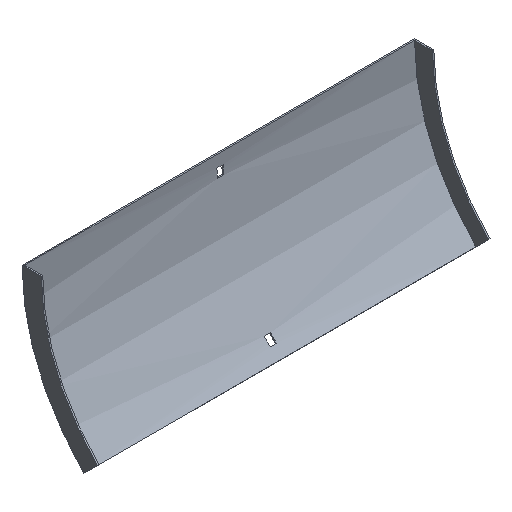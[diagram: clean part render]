
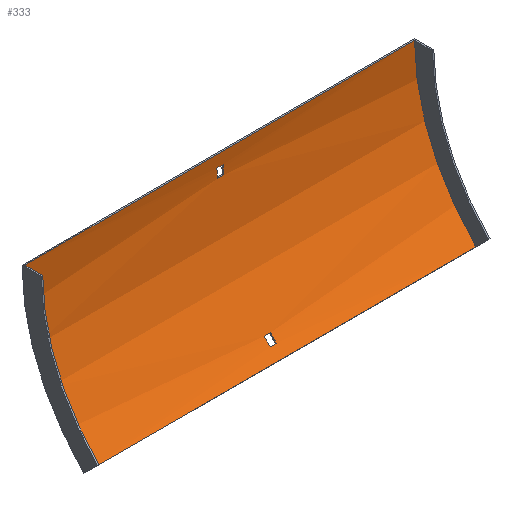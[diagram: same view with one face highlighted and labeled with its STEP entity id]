
A CAD part, isometric view. The second image highlights one B-rep face of the part: STEP entity #333.
In plain terms, the highlighted cylindrical face has radius 217.5 mm (diameter 435 mm), a partial arc.
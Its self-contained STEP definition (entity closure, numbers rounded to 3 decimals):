
#5 = DIRECTION ( 'NONE',  ( 0., 0., 1. ) ) ;
#14 = CARTESIAN_POINT ( 'NONE',  ( 203.5, -56.953, -145.076 ) ) ;
#22 = CARTESIAN_POINT ( 'NONE',  ( 203.5, -1.831, -12. ) ) ;
#25 = DIRECTION ( 'NONE',  ( -1., 0., 0. ) ) ;
#29 = DIRECTION ( 'NONE',  ( 0., 0., -1. ) ) ;
#31 = CARTESIAN_POINT ( 'NONE',  ( -202., -65.204, -153.796 ) ) ;
#33 = AXIS2_PLACEMENT_3D ( 'NONE', #140, #334, #5 ) ;
#37 = CARTESIAN_POINT ( 'NONE',  ( 3.25, -51.074, -138.228 ) ) ;
#43 = CARTESIAN_POINT ( 'NONE',  ( -3.25, -56.953, -145.076 ) ) ;
#53 = CARTESIAN_POINT ( 'NONE',  ( -3.25, -51.074, -138.228 ) ) ;
#58 = FACE_OUTER_BOUND ( 'NONE', #536, .T. ) ;
#62 = VECTOR ( 'NONE', #529, 1000. ) ;
#63 = EDGE_CURVE ( 'NONE', #391, #538, #537, .T. ) ;
#65 = ORIENTED_EDGE ( 'NONE', *, *, #350, .F. ) ;
#74 = AXIS2_PLACEMENT_3D ( 'NONE', #430, #192, #102 ) ;
#76 = CARTESIAN_POINT ( 'NONE',  ( 3.25, -219., 0. ) ) ;
#85 = EDGE_CURVE ( 'NONE', #446, #263, #379, .T. ) ;
#94 = LINE ( 'NONE', #279, #513 ) ;
#98 = DIRECTION ( 'NONE',  ( 0., 0., 1. ) ) ;
#102 = DIRECTION ( 'NONE',  ( 0., 0., 1. ) ) ;
#105 = CARTESIAN_POINT ( 'NONE',  ( 202., -1.5, 0. ) ) ;
#111 = CIRCLE ( 'NONE', #447, 217.5 ) ;
#116 = CARTESIAN_POINT ( 'NONE',  ( -3.25, -1.831, -12. ) ) ;
#117 = VERTEX_POINT ( 'NONE', #314 ) ;
#120 = EDGE_LOOP ( 'NONE', ( #413, #452, #255, #497 ) ) ;
#123 = VECTOR ( 'NONE', #204, 1000. ) ;
#129 = DIRECTION ( 'NONE',  ( 0., 0., 1. ) ) ;
#140 = CARTESIAN_POINT ( 'NONE',  ( 3.25, -219., 0. ) ) ;
#144 = VECTOR ( 'NONE', #409, 1000. ) ;
#145 = CARTESIAN_POINT ( 'NONE',  ( 202., -65.204, -153.796 ) ) ;
#149 = ORIENTED_EDGE ( 'NONE', *, *, #516, .T. ) ;
#160 = VECTOR ( 'NONE', #25, 1000. ) ;
#174 = EDGE_CURVE ( 'NONE', #117, #591, #94, .T. ) ;
#177 = CARTESIAN_POINT ( 'NONE',  ( 3.25, -2.516, -21. ) ) ;
#180 = CIRCLE ( 'NONE', #356, 217.5 ) ;
#181 = VERTEX_POINT ( 'NONE', #43 ) ;
#187 = DIRECTION ( 'NONE',  ( 1., 0., 0. ) ) ;
#192 = DIRECTION ( 'NONE',  ( -1., 0., 0. ) ) ;
#198 = DIRECTION ( 'NONE',  ( -1., 0., 0. ) ) ;
#204 = DIRECTION ( 'NONE',  ( -1., 0., 0. ) ) ;
#227 = VERTEX_POINT ( 'NONE', #31 ) ;
#231 = EDGE_CURVE ( 'NONE', #227, #387, #180, .T. ) ;
#235 = CARTESIAN_POINT ( 'NONE',  ( -202., -1.5, 0. ) ) ;
#240 = CARTESIAN_POINT ( 'NONE',  ( 3.25, -56.953, -145.076 ) ) ;
#245 = ORIENTED_EDGE ( 'NONE', *, *, #231, .F. ) ;
#247 = LINE ( 'NONE', #14, #123 ) ;
#251 = LINE ( 'NONE', #22, #160 ) ;
#255 = ORIENTED_EDGE ( 'NONE', *, *, #396, .F. ) ;
#263 = VERTEX_POINT ( 'NONE', #105 ) ;
#264 = EDGE_CURVE ( 'NONE', #477, #117, #469, .T. ) ;
#267 = ORIENTED_EDGE ( 'NONE', *, *, #85, .T. ) ;
#279 = CARTESIAN_POINT ( 'NONE',  ( 203.5, -2.516, -21. ) ) ;
#287 = EDGE_CURVE ( 'NONE', #538, #295, #357, .T. ) ;
#288 = FACE_BOUND ( 'NONE', #120, .T. ) ;
#295 = VERTEX_POINT ( 'NONE', #240 ) ;
#300 = ORIENTED_EDGE ( 'NONE', *, *, #531, .T. ) ;
#303 = LINE ( 'NONE', #340, #62 ) ;
#311 = DIRECTION ( 'NONE',  ( 1., 0., 0. ) ) ;
#314 = CARTESIAN_POINT ( 'NONE',  ( -3.25, -2.516, -21. ) ) ;
#328 = AXIS2_PLACEMENT_3D ( 'NONE', #526, #429, #565 ) ;
#330 = CARTESIAN_POINT ( 'NONE',  ( -3.25, -219., 0. ) ) ;
#333 = ADVANCED_FACE ( 'NONE', ( #288, #58, #381 ), #472, .F. ) ;
#334 = DIRECTION ( 'NONE',  ( -1., 0., 0. ) ) ;
#337 = CARTESIAN_POINT ( 'NONE',  ( 3.25, -1.831, -12. ) ) ;
#338 = LINE ( 'NONE', #145, #533 ) ;
#340 = CARTESIAN_POINT ( 'NONE',  ( 202., -1.5, 0. ) ) ;
#350 = EDGE_CURVE ( 'NONE', #446, #227, #338, .T. ) ;
#356 = AXIS2_PLACEMENT_3D ( 'NONE', #459, #187, #129 ) ;
#357 = CIRCLE ( 'NONE', #33, 217.5 ) ;
#365 = VERTEX_POINT ( 'NONE', #337 ) ;
#379 = CIRCLE ( 'NONE', #328, 217.5 ) ;
#381 = FACE_BOUND ( 'NONE', #439, .T. ) ;
#382 = ORIENTED_EDGE ( 'NONE', *, *, #564, .T. ) ;
#387 = VERTEX_POINT ( 'NONE', #235 ) ;
#391 = VERTEX_POINT ( 'NONE', #53 ) ;
#394 = DIRECTION ( 'NONE',  ( 0., 0., -1. ) ) ;
#396 = EDGE_CURVE ( 'NONE', #591, #365, #458, .T. ) ;
#397 = DIRECTION ( 'NONE',  ( 1., 0., 0. ) ) ;
#401 = ORIENTED_EDGE ( 'NONE', *, *, #63, .T. ) ;
#409 = DIRECTION ( 'NONE',  ( 1., 0., 0. ) ) ;
#413 = ORIENTED_EDGE ( 'NONE', *, *, #264, .F. ) ;
#415 = CARTESIAN_POINT ( 'NONE',  ( -3.25, -219., 0. ) ) ;
#416 = DIRECTION ( 'NONE',  ( 1., 0., 0. ) ) ;
#429 = DIRECTION ( 'NONE',  ( 1., 0., 0. ) ) ;
#430 = CARTESIAN_POINT ( 'NONE',  ( 203.5, -219., 0. ) ) ;
#433 = EDGE_CURVE ( 'NONE', #365, #477, #251, .T. ) ;
#439 = EDGE_LOOP ( 'NONE', ( #300, #382, #401, #450 ) ) ;
#446 = VERTEX_POINT ( 'NONE', #572 ) ;
#447 = AXIS2_PLACEMENT_3D ( 'NONE', #415, #311, #29 ) ;
#450 = ORIENTED_EDGE ( 'NONE', *, *, #287, .T. ) ;
#452 = ORIENTED_EDGE ( 'NONE', *, *, #433, .F. ) ;
#458 = CIRCLE ( 'NONE', #492, 217.5 ) ;
#459 = CARTESIAN_POINT ( 'NONE',  ( -202., -219., 0. ) ) ;
#469 = CIRCLE ( 'NONE', #544, 217.5 ) ;
#472 = CYLINDRICAL_SURFACE ( 'NONE', #74, 217.5 ) ;
#477 = VERTEX_POINT ( 'NONE', #116 ) ;
#491 = CARTESIAN_POINT ( 'NONE',  ( 203.5, -51.074, -138.228 ) ) ;
#492 = AXIS2_PLACEMENT_3D ( 'NONE', #76, #397, #394 ) ;
#497 = ORIENTED_EDGE ( 'NONE', *, *, #174, .F. ) ;
#513 = VECTOR ( 'NONE', #416, 1000. ) ;
#516 = EDGE_CURVE ( 'NONE', #263, #387, #303, .T. ) ;
#526 = CARTESIAN_POINT ( 'NONE',  ( 202., -219., 0. ) ) ;
#529 = DIRECTION ( 'NONE',  ( -1., 0., 0. ) ) ;
#531 = EDGE_CURVE ( 'NONE', #295, #181, #247, .T. ) ;
#533 = VECTOR ( 'NONE', #570, 1000. ) ;
#536 = EDGE_LOOP ( 'NONE', ( #245, #65, #267, #149 ) ) ;
#537 = LINE ( 'NONE', #491, #144 ) ;
#538 = VERTEX_POINT ( 'NONE', #37 ) ;
#544 = AXIS2_PLACEMENT_3D ( 'NONE', #330, #198, #98 ) ;
#564 = EDGE_CURVE ( 'NONE', #181, #391, #111, .T. ) ;
#565 = DIRECTION ( 'NONE',  ( 0., 0., 1. ) ) ;
#570 = DIRECTION ( 'NONE',  ( -1., 0., 0. ) ) ;
#572 = CARTESIAN_POINT ( 'NONE',  ( 202., -65.204, -153.796 ) ) ;
#591 = VERTEX_POINT ( 'NONE', #177 ) ;
